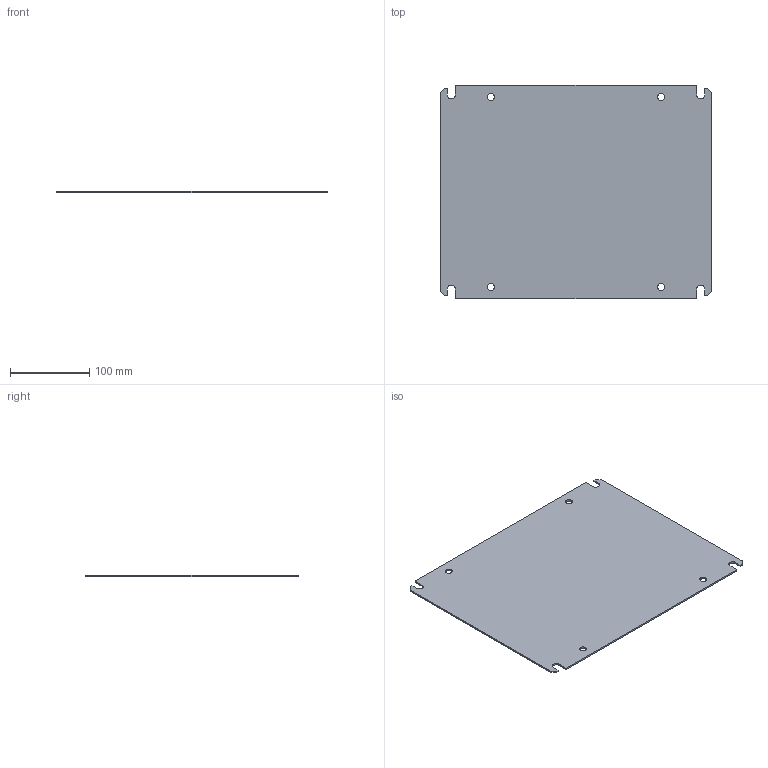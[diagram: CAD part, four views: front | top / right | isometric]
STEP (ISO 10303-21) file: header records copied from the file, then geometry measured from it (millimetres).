
FILE_DESCRIPTION (( 'STEP AP214' ), '1' );
FILE_NAME ('MPC 30.40 Ïàíåëü ìîíòàæíàÿ.STEP', '2025-02-21T09:33:53', ( '' ), ( '' ), 'SwSTEP 2.0', 'SolidWorks 2019', '' );
FILE_SCHEMA (( 'AUTOMOTIVE_DESIGN' ));
Length unit declared in the file: millimetre
Products named in the file (1): MPC 30.40 Ïàíåëü ìîíòàæíàÿ
Bounding box: 342 x 270 x 2 mm (x, y, z)
Volume: 182463 mm3; surface area: 185289.3 mm2
Topology: 1 solids, 1 shells, 50 faces, 144 edges, 96 vertices
Faces by surface type: cylinder 28, plane 22
Entity records: 1714 total; most frequent: DIRECTION 302, CARTESIAN_POINT 291, ORIENTED_EDGE 288, EDGE_CURVE 144, AXIS2_PLACEMENT_3D 107, VERTEX_POINT 96, VECTOR 88, LINE 88
